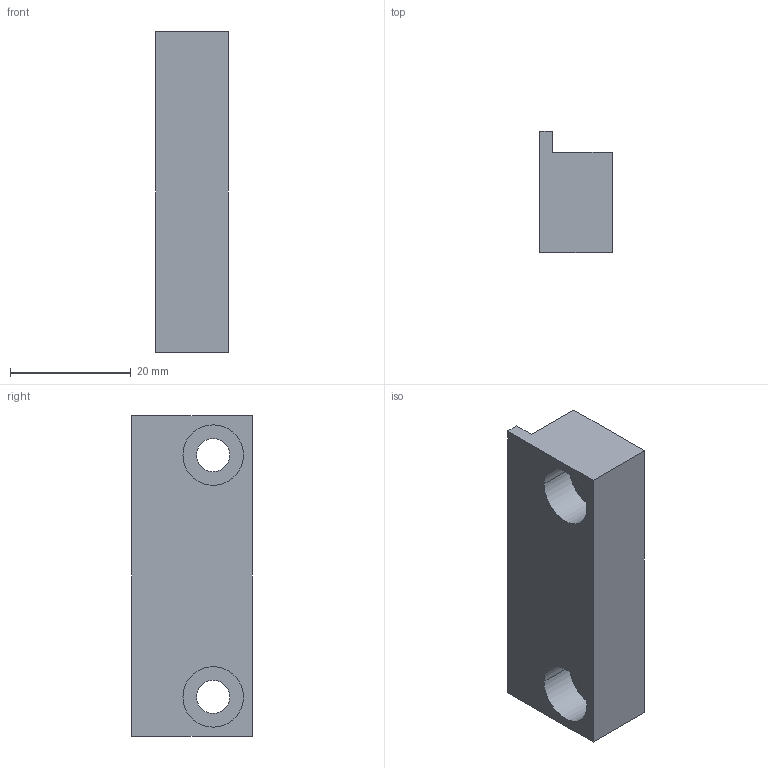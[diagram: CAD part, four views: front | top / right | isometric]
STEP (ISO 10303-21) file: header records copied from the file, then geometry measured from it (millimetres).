
FILE_DESCRIPTION((''),'2;1');
FILE_NAME('F4TE2555_SW0001','2005-12-15T',('OZ38835'),(''),'PRO/ENGINEER BY PARAMETRIC TECHNOLOGY CORPORATION, 2005030','PRO/ENGINEER BY PARAMETRIC TECHNOLOGY CORPORATION, 2005030','');
FILE_SCHEMA(('AUTOMOTIVE_DESIGN_CC2 { 1 2 10303 214 -1 1 5 2 }'));
Length unit declared in the file: millimetre
Products named in the file (1): F4TE2555_SW0001
Bounding box: 12 x 20 x 53 mm (x, y, z)
Surface area: 4292 mm2 (no closed solid volume)
Topology: 0 solids, 1 shells, 18 faces, 42 edges, 28 vertices
Faces by surface type: plane 10, cylinder 8
Entity records: 882 total; most frequent: DIRECTION 94, CARTESIAN_POINT 88, ORIENTED_EDGE 84, COLOUR_RGB 76, PRESENTATION_STYLE_ASSIGNMENT 61, STYLED_ITEM 43, CURVE_STYLE 42, EDGE_CURVE 42
